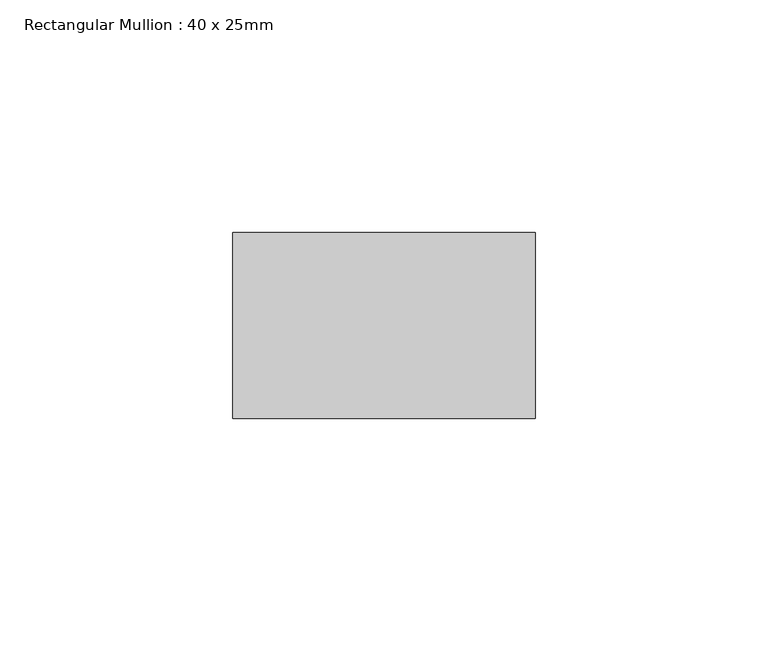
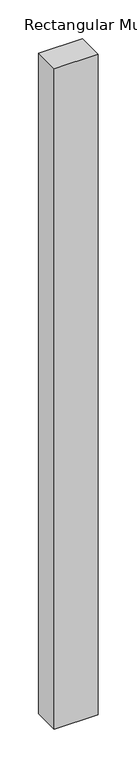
"""IFC4 building model written with IfcOpenShell, lengths in millimetres: member geometry, Rectangular Mullion : 40 x 25mm."""

from ifc_helpers import new_model, si_unit, frame, origin, place, context, project, spatial, polyline, outline, extrude, source, transform, mapped, element, save


def rectangular_mullion_40_x_25mm_2574e2c4(model_context):
    return source(origin(), model_context, "Body", "SweptSolid", [
        extrude(outline(polyline([(40.0, -20.0), (40.0, -60.0), (-25.0, -60.0), (-25.0, -20.0), (40.0, -20.0)])), frame((0.0, 0.0, -1036.162806), z_axis=(0.0, 0.0, 1.0), x_axis=(1.0, 0.0, 0.0)), (0.0, 0.0, 1.0), 1036.162806),
    ])


if __name__ == "__main__":
    model = new_model("IFC4")
    model_context = context("Model", 3, world=origin())
    ifc_project = project(units=[si_unit("LENGTHUNIT", "METRE", prefix="MILLI")], contexts=[model_context])
    site = spatial("IfcSite", under=ifc_project)
    building = spatial("IfcBuilding", under=site)
    placement = place(None, origin())
    rectangular_mullion_40_x_25mm_shape = rectangular_mullion_40_x_25mm_2574e2c4(model_context)
    element("IfcMember", 1, ObjectType="Rectangular Mullion : 40 x 25mm", at=placement, inside=building, context=model_context, shape_type="MappedRepresentation", body=[
        mapped(rectangular_mullion_40_x_25mm_shape, transform((0.0, 0.0, 0.0), x_axis=(1.0, 0.0, 0.0), y_axis=(0.0, 1.0, 0.0), z_axis=(0.0, 0.0, 1.0))),
    ])
    save(model, "model.ifc")
